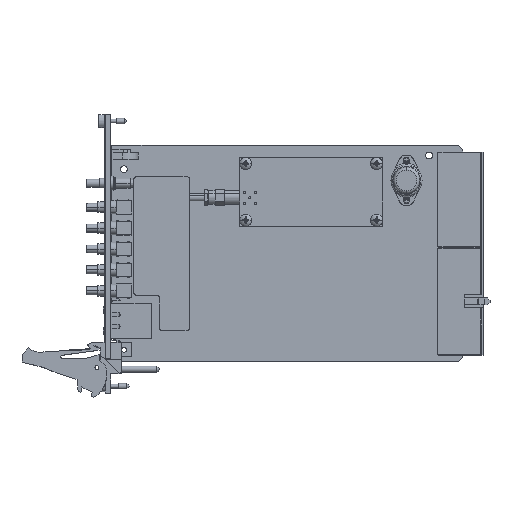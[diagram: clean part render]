
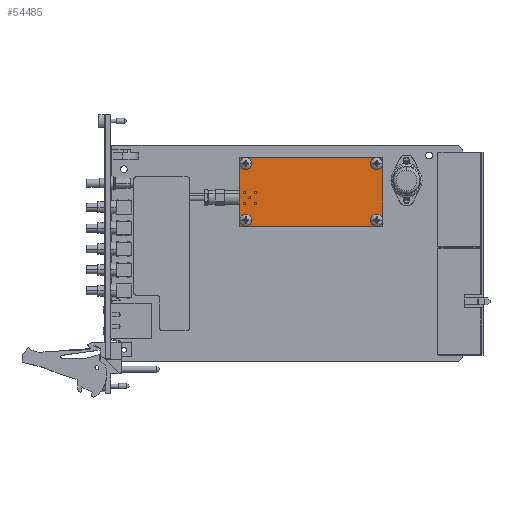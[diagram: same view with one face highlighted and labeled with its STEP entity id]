
A CAD part, top view. The second image highlights one B-rep face of the part: STEP entity #54485.
In plain terms, the highlighted planar face has unit normal (0, 0, 1).
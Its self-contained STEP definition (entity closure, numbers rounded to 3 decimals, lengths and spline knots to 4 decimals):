
#17235=DIRECTION('',(0.,-1.,0.));
#17236=VECTOR('',#17235,1.25);
#17237=CARTESIAN_POINT('',(2.24,-0.2218,0.481));
#17238=LINE('',#17237,#17236);
#17239=DIRECTION('',(-1.,0.,0.));
#17240=VECTOR('',#17239,2.6);
#17241=CARTESIAN_POINT('',(4.84,-0.2218,0.481));
#17242=LINE('',#17241,#17240);
#17243=DIRECTION('',(0.,1.,0.));
#17244=VECTOR('',#17243,1.25);
#17245=CARTESIAN_POINT('',(4.84,-1.4718,0.481));
#17246=LINE('',#17245,#17244);
#17247=DIRECTION('',(1.,0.,0.));
#17248=VECTOR('',#17247,2.6);
#17249=CARTESIAN_POINT('',(2.24,-1.4718,0.481));
#17250=LINE('',#17249,#17248);
#17251=CARTESIAN_POINT('',(2.427,-0.9518,0.481));
#17252=DIRECTION('',(0.,0.,1.));
#17253=DIRECTION('',(0.,1.,0.));
#17254=AXIS2_PLACEMENT_3D('',#17251,#17252,#17253);
#17256=CARTESIAN_POINT('',(2.427,-0.9518,0.481));
#17257=DIRECTION('',(0.,0.,1.));
#17258=DIRECTION('',(0.,-1.,0.));
#17259=AXIS2_PLACEMENT_3D('',#17256,#17257,#17258);
#17261=DIRECTION('',(1.,0.,0.));
#17262=VECTOR('',#17261,0.04);
#17263=CARTESIAN_POINT('',(2.307,-0.8718,0.481));
#17264=LINE('',#17263,#17262);
#17265=DIRECTION('',(0.,1.,0.));
#17266=VECTOR('',#17265,0.04);
#17267=CARTESIAN_POINT('',(2.347,-0.8718,0.481));
#17268=LINE('',#17267,#17266);
#17269=DIRECTION('',(-1.,0.,0.));
#17270=VECTOR('',#17269,0.04);
#17271=CARTESIAN_POINT('',(2.347,-0.8318,0.481));
#17272=LINE('',#17271,#17270);
#17273=DIRECTION('',(0.,-1.,0.));
#17274=VECTOR('',#17273,0.04);
#17275=CARTESIAN_POINT('',(2.307,-0.8318,0.481));
#17276=LINE('',#17275,#17274);
#17277=DIRECTION('',(1.,0.,0.));
#17278=VECTOR('',#17277,0.04);
#17279=CARTESIAN_POINT('',(2.507,-0.8718,0.481));
#17280=LINE('',#17279,#17278);
#17281=DIRECTION('',(0.,1.,0.));
#17282=VECTOR('',#17281,0.04);
#17283=CARTESIAN_POINT('',(2.547,-0.8718,0.481));
#17284=LINE('',#17283,#17282);
#17285=DIRECTION('',(-1.,0.,0.));
#17286=VECTOR('',#17285,0.04);
#17287=CARTESIAN_POINT('',(2.547,-0.8318,0.481));
#17288=LINE('',#17287,#17286);
#17289=DIRECTION('',(0.,-1.,0.));
#17290=VECTOR('',#17289,0.04);
#17291=CARTESIAN_POINT('',(2.507,-0.8318,0.481));
#17292=LINE('',#17291,#17290);
#17293=DIRECTION('',(1.,0.,0.));
#17294=VECTOR('',#17293,0.04);
#17295=CARTESIAN_POINT('',(2.307,-1.0718,0.481));
#17296=LINE('',#17295,#17294);
#17297=DIRECTION('',(0.,1.,0.));
#17298=VECTOR('',#17297,0.04);
#17299=CARTESIAN_POINT('',(2.347,-1.0718,0.481));
#17300=LINE('',#17299,#17298);
#17301=DIRECTION('',(-1.,0.,0.));
#17302=VECTOR('',#17301,0.04);
#17303=CARTESIAN_POINT('',(2.347,-1.0318,0.481));
#17304=LINE('',#17303,#17302);
#17305=DIRECTION('',(0.,-1.,0.));
#17306=VECTOR('',#17305,0.04);
#17307=CARTESIAN_POINT('',(2.307,-1.0318,0.481));
#17308=LINE('',#17307,#17306);
#17309=DIRECTION('',(1.,0.,0.));
#17310=VECTOR('',#17309,0.04);
#17311=CARTESIAN_POINT('',(2.507,-1.0718,0.481));
#17312=LINE('',#17311,#17310);
#17313=DIRECTION('',(0.,1.,0.));
#17314=VECTOR('',#17313,0.04);
#17315=CARTESIAN_POINT('',(2.547,-1.0718,0.481));
#17316=LINE('',#17315,#17314);
#17317=DIRECTION('',(-1.,0.,0.));
#17318=VECTOR('',#17317,0.04);
#17319=CARTESIAN_POINT('',(2.547,-1.0318,0.481));
#17320=LINE('',#17319,#17318);
#17321=DIRECTION('',(0.,-1.,0.));
#17322=VECTOR('',#17321,0.04);
#17323=CARTESIAN_POINT('',(2.507,-1.0318,0.481));
#17324=LINE('',#17323,#17322);
#17325=CARTESIAN_POINT('',(2.35,-1.3618,0.481));
#17326=DIRECTION('',(0.,0.,1.));
#17327=DIRECTION('',(-1.,0.,0.));
#17328=AXIS2_PLACEMENT_3D('',#17325,#17326,#17327);
#17330=CARTESIAN_POINT('',(2.35,-1.3618,0.481));
#17331=DIRECTION('',(0.,0.,1.));
#17332=DIRECTION('',(1.,0.,0.));
#17333=AXIS2_PLACEMENT_3D('',#17330,#17331,#17332);
#17335=CARTESIAN_POINT('',(2.35,-0.3318,0.481));
#17336=DIRECTION('',(0.,0.,1.));
#17337=DIRECTION('',(-1.,0.,0.));
#17338=AXIS2_PLACEMENT_3D('',#17335,#17336,#17337);
#17340=CARTESIAN_POINT('',(2.35,-0.3318,0.481));
#17341=DIRECTION('',(0.,0.,1.));
#17342=DIRECTION('',(1.,0.,0.));
#17343=AXIS2_PLACEMENT_3D('',#17340,#17341,#17342);
#17345=CARTESIAN_POINT('',(4.73,-1.3618,0.481));
#17346=DIRECTION('',(0.,0.,1.));
#17347=DIRECTION('',(-1.,0.,0.));
#17348=AXIS2_PLACEMENT_3D('',#17345,#17346,#17347);
#17350=CARTESIAN_POINT('',(4.73,-1.3618,0.481));
#17351=DIRECTION('',(0.,0.,1.));
#17352=DIRECTION('',(1.,0.,0.));
#17353=AXIS2_PLACEMENT_3D('',#17350,#17351,#17352);
#17355=CARTESIAN_POINT('',(4.73,-0.3318,0.481));
#17356=DIRECTION('',(0.,0.,1.));
#17357=DIRECTION('',(-1.,0.,0.));
#17358=AXIS2_PLACEMENT_3D('',#17355,#17356,#17357);
#17360=CARTESIAN_POINT('',(4.73,-0.3318,0.481));
#17361=DIRECTION('',(0.,0.,1.));
#17362=DIRECTION('',(1.,0.,0.));
#17363=AXIS2_PLACEMENT_3D('',#17360,#17361,#17362);
#26653=CARTESIAN_POINT('',(2.24,-0.2218,0.481));
#26654=CARTESIAN_POINT('',(2.24,-1.4718,0.481));
#26655=VERTEX_POINT('',#26653);
#26656=VERTEX_POINT('',#26654);
#26657=CARTESIAN_POINT('',(4.84,-1.4718,0.481));
#26658=VERTEX_POINT('',#26657);
#26659=CARTESIAN_POINT('',(4.84,-0.2218,0.481));
#26660=VERTEX_POINT('',#26659);
#26755=CARTESIAN_POINT('',(2.427,-0.9328,0.481));
#26756=CARTESIAN_POINT('',(2.427,-0.9708,0.481));
#26757=VERTEX_POINT('',#26755);
#26758=VERTEX_POINT('',#26756);
#26759=CARTESIAN_POINT('',(2.307,-0.8718,0.481));
#26760=CARTESIAN_POINT('',(2.347,-0.8718,0.481));
#26761=VERTEX_POINT('',#26759);
#26762=VERTEX_POINT('',#26760);
#26763=CARTESIAN_POINT('',(2.347,-0.8318,0.481));
#26764=VERTEX_POINT('',#26763);
#26765=CARTESIAN_POINT('',(2.307,-0.8318,0.481));
#26766=VERTEX_POINT('',#26765);
#26767=CARTESIAN_POINT('',(2.507,-0.8718,0.481));
#26768=CARTESIAN_POINT('',(2.547,-0.8718,0.481));
#26769=VERTEX_POINT('',#26767);
#26770=VERTEX_POINT('',#26768);
#26771=CARTESIAN_POINT('',(2.547,-0.8318,0.481));
#26772=VERTEX_POINT('',#26771);
#26773=CARTESIAN_POINT('',(2.507,-0.8318,0.481));
#26774=VERTEX_POINT('',#26773);
#26775=CARTESIAN_POINT('',(2.307,-1.0718,0.481));
#26776=CARTESIAN_POINT('',(2.347,-1.0718,0.481));
#26777=VERTEX_POINT('',#26775);
#26778=VERTEX_POINT('',#26776);
#26779=CARTESIAN_POINT('',(2.347,-1.0318,0.481));
#26780=VERTEX_POINT('',#26779);
#26781=CARTESIAN_POINT('',(2.307,-1.0318,0.481));
#26782=VERTEX_POINT('',#26781);
#26783=CARTESIAN_POINT('',(2.507,-1.0718,0.481));
#26784=CARTESIAN_POINT('',(2.547,-1.0718,0.481));
#26785=VERTEX_POINT('',#26783);
#26786=VERTEX_POINT('',#26784);
#26787=CARTESIAN_POINT('',(2.547,-1.0318,0.481));
#26788=VERTEX_POINT('',#26787);
#26789=CARTESIAN_POINT('',(2.507,-1.0318,0.481));
#26790=VERTEX_POINT('',#26789);
#26989=CARTESIAN_POINT('',(2.2405,-1.3618,0.481));
#26990=CARTESIAN_POINT('',(2.4595,-1.3618,0.481));
#26991=VERTEX_POINT('',#26989);
#26992=VERTEX_POINT('',#26990);
#27095=CARTESIAN_POINT('',(2.2405,-0.3318,0.481));
#27096=CARTESIAN_POINT('',(2.4595,-0.3318,0.481));
#27097=VERTEX_POINT('',#27095);
#27098=VERTEX_POINT('',#27096);
#27201=CARTESIAN_POINT('',(4.6205,-1.3618,0.481));
#27202=CARTESIAN_POINT('',(4.8395,-1.3618,0.481));
#27203=VERTEX_POINT('',#27201);
#27204=VERTEX_POINT('',#27202);
#27307=CARTESIAN_POINT('',(4.6205,-0.3318,0.481));
#27308=CARTESIAN_POINT('',(4.8395,-0.3318,0.481));
#27309=VERTEX_POINT('',#27307);
#27310=VERTEX_POINT('',#27308);
#54404=CARTESIAN_POINT('',(2.24,-0.2218,0.481));
#54405=DIRECTION('',(0.,0.,1.));
#54406=DIRECTION('',(1.,0.,0.));
#54407=AXIS2_PLACEMENT_3D('',#54404,#54405,#54406);
#54408=PLANE('',#54407);
#54409=ORIENTED_EDGE('',*,*,#54356,.F.);
#54410=ORIENTED_EDGE('',*,*,#54371,.F.);
#54411=ORIENTED_EDGE('',*,*,#54385,.F.);
#54412=ORIENTED_EDGE('',*,*,#54398,.F.);
#54413=EDGE_LOOP('',(#54409,#54410,#54411,#54412));
#54414=FACE_OUTER_BOUND('',#54413,.F.);
#54416=ORIENTED_EDGE('',*,*,#54415,.T.);
#54418=ORIENTED_EDGE('',*,*,#54417,.T.);
#54419=EDGE_LOOP('',(#54416,#54418));
#54420=FACE_BOUND('',#54419,.F.);
#54422=ORIENTED_EDGE('',*,*,#54421,.T.);
#54424=ORIENTED_EDGE('',*,*,#54423,.T.);
#54426=ORIENTED_EDGE('',*,*,#54425,.T.);
#54428=ORIENTED_EDGE('',*,*,#54427,.T.);
#54429=EDGE_LOOP('',(#54422,#54424,#54426,#54428));
#54430=FACE_BOUND('',#54429,.F.);
#54432=ORIENTED_EDGE('',*,*,#54431,.T.);
#54434=ORIENTED_EDGE('',*,*,#54433,.T.);
#54436=ORIENTED_EDGE('',*,*,#54435,.T.);
#54438=ORIENTED_EDGE('',*,*,#54437,.T.);
#54439=EDGE_LOOP('',(#54432,#54434,#54436,#54438));
#54440=FACE_BOUND('',#54439,.F.);
#54442=ORIENTED_EDGE('',*,*,#54441,.T.);
#54444=ORIENTED_EDGE('',*,*,#54443,.T.);
#54446=ORIENTED_EDGE('',*,*,#54445,.T.);
#54448=ORIENTED_EDGE('',*,*,#54447,.T.);
#54449=EDGE_LOOP('',(#54442,#54444,#54446,#54448));
#54450=FACE_BOUND('',#54449,.F.);
#54452=ORIENTED_EDGE('',*,*,#54451,.T.);
#54454=ORIENTED_EDGE('',*,*,#54453,.T.);
#54456=ORIENTED_EDGE('',*,*,#54455,.T.);
#54458=ORIENTED_EDGE('',*,*,#54457,.T.);
#54459=EDGE_LOOP('',(#54452,#54454,#54456,#54458));
#54460=FACE_BOUND('',#54459,.F.);
#54462=ORIENTED_EDGE('',*,*,#54461,.T.);
#54464=ORIENTED_EDGE('',*,*,#54463,.T.);
#54465=EDGE_LOOP('',(#54462,#54464));
#54466=FACE_BOUND('',#54465,.F.);
#54468=ORIENTED_EDGE('',*,*,#54467,.T.);
#54470=ORIENTED_EDGE('',*,*,#54469,.T.);
#54471=EDGE_LOOP('',(#54468,#54470));
#54472=FACE_BOUND('',#54471,.F.);
#54474=ORIENTED_EDGE('',*,*,#54473,.T.);
#54476=ORIENTED_EDGE('',*,*,#54475,.T.);
#54477=EDGE_LOOP('',(#54474,#54476));
#54478=FACE_BOUND('',#54477,.F.);
#54480=ORIENTED_EDGE('',*,*,#54479,.T.);
#54482=ORIENTED_EDGE('',*,*,#54481,.T.);
#54483=EDGE_LOOP('',(#54480,#54482));
#54484=FACE_BOUND('',#54483,.F.);
#54485=ADVANCED_FACE('',(#54414,#54420,#54430,#54440,#54450,#54460,#54466,
#54472,#54478,#54484),#54408,.T.);
#17255=CIRCLE('',#17254,0.019);
#17260=CIRCLE('',#17259,0.019);
#17329=CIRCLE('',#17328,0.1095);
#17334=CIRCLE('',#17333,0.1095);
#17339=CIRCLE('',#17338,0.1095);
#17344=CIRCLE('',#17343,0.1095);
#17349=CIRCLE('',#17348,0.1095);
#17354=CIRCLE('',#17353,0.1095);
#17359=CIRCLE('',#17358,0.1095);
#17364=CIRCLE('',#17363,0.1095);
#54356=EDGE_CURVE('',#26655,#26656,#17238,.T.);
#54371=EDGE_CURVE('',#26660,#26655,#17242,.T.);
#54385=EDGE_CURVE('',#26658,#26660,#17246,.T.);
#54398=EDGE_CURVE('',#26656,#26658,#17250,.T.);
#54415=EDGE_CURVE('',#26757,#26758,#17255,.T.);
#54417=EDGE_CURVE('',#26758,#26757,#17260,.T.);
#54421=EDGE_CURVE('',#26761,#26762,#17264,.T.);
#54423=EDGE_CURVE('',#26762,#26764,#17268,.T.);
#54425=EDGE_CURVE('',#26764,#26766,#17272,.T.);
#54427=EDGE_CURVE('',#26766,#26761,#17276,.T.);
#54431=EDGE_CURVE('',#26769,#26770,#17280,.T.);
#54433=EDGE_CURVE('',#26770,#26772,#17284,.T.);
#54435=EDGE_CURVE('',#26772,#26774,#17288,.T.);
#54437=EDGE_CURVE('',#26774,#26769,#17292,.T.);
#54441=EDGE_CURVE('',#26777,#26778,#17296,.T.);
#54443=EDGE_CURVE('',#26778,#26780,#17300,.T.);
#54445=EDGE_CURVE('',#26780,#26782,#17304,.T.);
#54447=EDGE_CURVE('',#26782,#26777,#17308,.T.);
#54451=EDGE_CURVE('',#26785,#26786,#17312,.T.);
#54453=EDGE_CURVE('',#26786,#26788,#17316,.T.);
#54455=EDGE_CURVE('',#26788,#26790,#17320,.T.);
#54457=EDGE_CURVE('',#26790,#26785,#17324,.T.);
#54461=EDGE_CURVE('',#26991,#26992,#17329,.T.);
#54463=EDGE_CURVE('',#26992,#26991,#17334,.T.);
#54467=EDGE_CURVE('',#27097,#27098,#17339,.T.);
#54469=EDGE_CURVE('',#27098,#27097,#17344,.T.);
#54473=EDGE_CURVE('',#27203,#27204,#17349,.T.);
#54475=EDGE_CURVE('',#27204,#27203,#17354,.T.);
#54479=EDGE_CURVE('',#27309,#27310,#17359,.T.);
#54481=EDGE_CURVE('',#27310,#27309,#17364,.T.);
